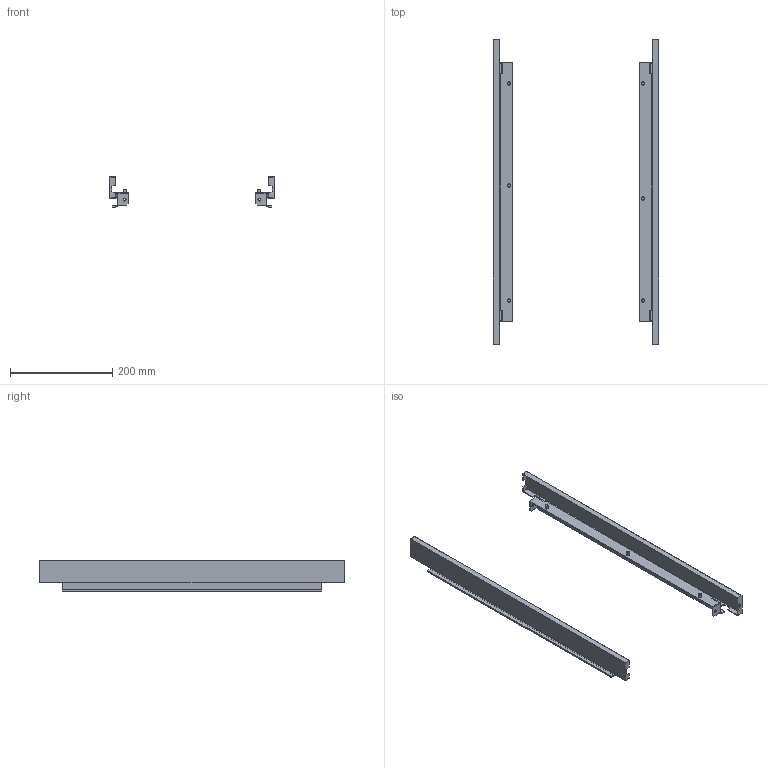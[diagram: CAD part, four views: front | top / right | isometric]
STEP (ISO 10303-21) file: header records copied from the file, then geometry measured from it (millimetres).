
FILE_DESCRIPTION (( 'STEP AP214' ), '1' );
FILE_NAME ('FO-00-PWCK-060 Ôàëüø-ïàíåëü êîìïåíñàöèîííàÿ øèðèíà 600 ìì ñ âûðåçîì (2 øò óïàê).STEP', '2025-07-14T08:46:15', ( '' ), ( '' ), 'SwSTEP 2.0', 'SolidWorks 2023', '' );
FILE_SCHEMA (( 'AUTOMOTIVE_DESIGN' ));
Length unit declared in the file: millimetre
Products named in the file (2): FO-00-PWCK-060 Фальш-панель компенсационная ширина 600 мм с вырезом (2 шт упак); FO-00-PWCK-060 Фальш-панель компенсационная ширина 600мм с вырезом
Assembly tree (2 placements, depth 2):
  FO-00-PWCK-060 Фальш-панель компенсационная ширина 600 мм с вырезом (2 шт упак)
    FO-00-PWCK-060 Фальш-панель компенсационная ширина 600мм с вырезом  x2
Bounding box: 323.75 x 595 x 60.1 mm (x, y, z)
Volume: 261194.5 mm3; surface area: 293397 mm2
Topology: 2 solids, 2 shells, 366 faces, 962 edges, 624 vertices
Faces by surface type: plane 184, cylinder 134, cone 24, torus 24
Entity records: 5728 total; most frequent: DIRECTION 1027, CARTESIAN_POINT 981, ORIENTED_EDGE 962, EDGE_CURVE 481, AXIS2_PLACEMENT_3D 358, VERTEX_POINT 312, LINE 311, VECTOR 311
